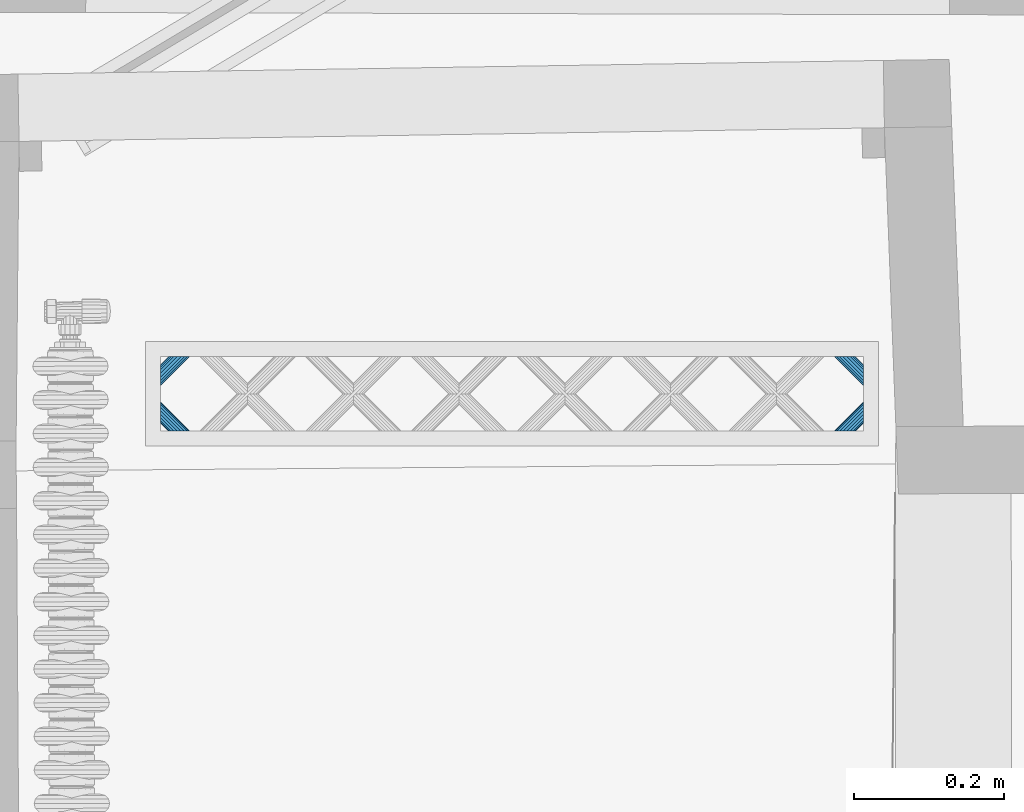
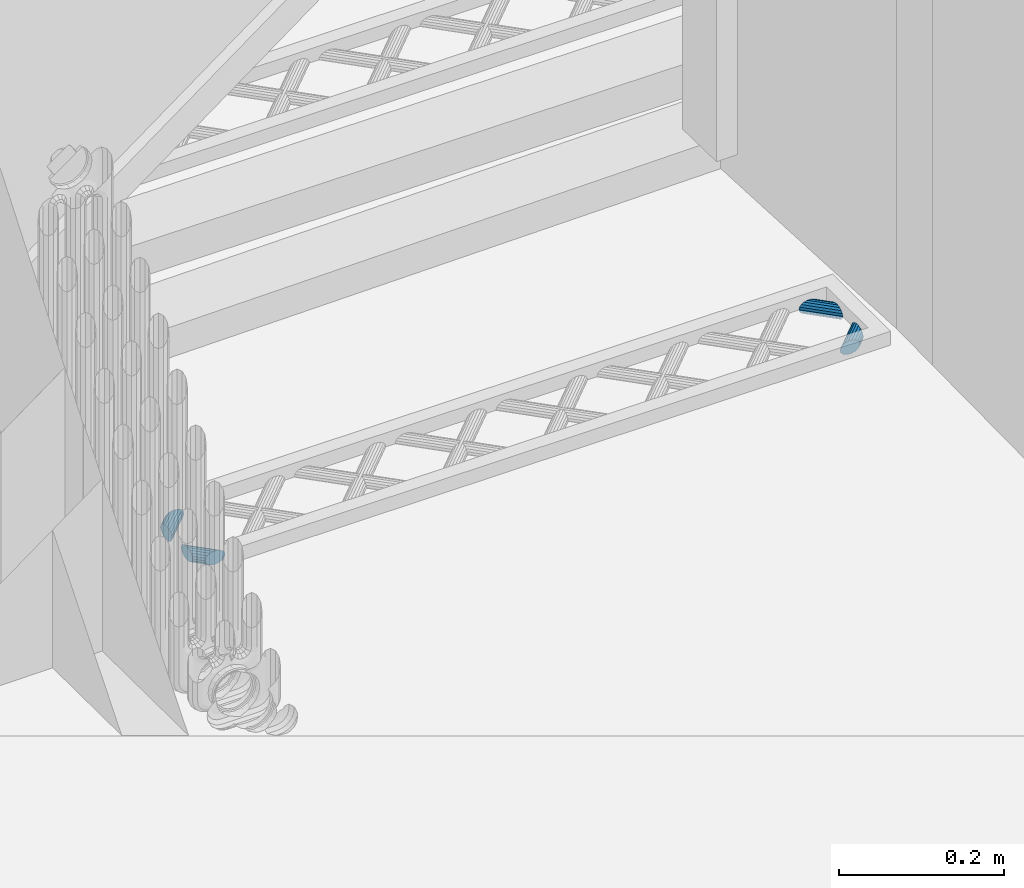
# One storey, part 85 of 133: 4 members, 1 element without a shape of its own.
"""IFC2X3 building model written with IfcOpenShell, lengths in centimetres."""

import ifcopenshell
import ifcopenshell.guid

model = None  # the IFC model being written
_history = None  # IfcOwnerHistory: only IFC2X3 demands one
_inside = {}  # id of a spatial element -> (the spatial element, [elements in it])
_under = {}  # id of a project, library or spatial element -> (it, [spatial elements below it])
_declared = {}  # id of a project -> (the project, [libraries it declares])
_typed = {}  # id of a type object -> (the type object, [elements of that type])
_made_of = {}  # id of a material, layer set ... -> (it, [elements and type objects made of it])


def new_model(schema):
    """Start an empty IFC model of exactly this schema.

    Asked for "IFC4X3", IfcOpenShell would pick the latest addendum, in which some entities
    have other attributes; the version numbers below select the first issue.
    IFC2X3 requires an IfcOwnerHistory on every rooted entity: one is made here for all.
    """
    global model, _history
    if schema == "IFC4X3":
        model = ifcopenshell.file(schema_version=(4, 3, 0, 0))
    else:
        model = ifcopenshell.file(schema=schema)
    _inside.clear()
    _under.clear()
    _declared.clear()
    _typed.clear()
    _made_of.clear()
    _history = None
    if model.schema == "IFC2X3":
        org = make("IfcOrganization", Name="unknown")
        user = make(
            "IfcPersonAndOrganization",
            ThePerson=make("IfcPerson", FamilyName="unknown"),
            TheOrganization=org,
        )
        app = make(
            "IfcApplication",
            ApplicationDeveloper=org,
            Version="unknown",
            ApplicationFullName="unknown",
            ApplicationIdentifier="unknown",
        )
        _history = make(
            "IfcOwnerHistory",
            OwningUser=user,
            OwningApplication=app,
            ChangeAction="ADDED",
            CreationDate=0,
        )
    return model


def make(cls, **values):
    """One entity of the class cls with the attributes given. An attribute that is None is left unset."""
    return model.create_entity(
        cls, **{name: value for name, value in values.items() if value is not None}
    )


def entity(cls, *values):
    """Any entity or typed value of the class cls, its attributes in the order of the schema. None: left unset."""
    e = model.create_entity(cls)
    for i, value in enumerate(values):
        if value is not None:
            e[i] = value
    return e


def rooted(cls, **values):
    """An entity with a GlobalId (a new one), such as an element, a storey or a relation."""
    return make(cls, GlobalId=ifcopenshell.guid.new(), OwnerHistory=_history, **values)


def si_unit(unit_type, name, prefix=None):
    """IfcSIUnit, for example si_unit("LENGTHUNIT", "METRE", prefix="MILLI")."""
    return make("IfcSIUnit", UnitType=unit_type, Prefix=prefix, Name=name)


def converted_unit(unit_type, name, factor, base, dimensions=None, offset=None):
    """IfcConversionBasedUnit, such as the inch: factor (a typed value) times the base unit."""
    return make(
        "IfcConversionBasedUnit"
        if offset is None
        else "IfcConversionBasedUnitWithOffset",
        ConversionOffset=offset,
        Dimensions=None
        if dimensions is None
        else entity("IfcDimensionalExponents", *dimensions),
        UnitType=unit_type,
        Name=name,
        ConversionFactor=make(
            "IfcMeasureWithUnit", ValueComponent=factor, UnitComponent=base
        ),
    )


def assignment(units):
    """IfcUnitAssignment: the units of a project."""
    return None if units is None else make("IfcUnitAssignment", Units=units)


def point(xyz):
    """IfcCartesianPoint."""
    return None if xyz is None else make("IfcCartesianPoint", Coordinates=xyz)


def direction(xyz):
    """IfcDirection."""
    return None if xyz is None else make("IfcDirection", DirectionRatios=xyz)


def frame(location, z_axis=None, x_axis=None):
    """IfcAxis2Placement3D, a coordinate frame: its origin and axes. An axis left out is left unset."""
    return make(
        "IfcAxis2Placement3D",
        Location=point(location),
        Axis=direction(z_axis),
        RefDirection=direction(x_axis),
    )


def origin():
    """The frame at (0, 0, 0) with its axes left unset."""
    return frame((0.0, 0.0, 0.0))


def origin_with_axes():
    """The frame at (0, 0, 0) with the z axis (0, 0, 1) and the x axis (1, 0, 0) written out."""
    return frame((0.0, 0.0, 0.0), z_axis=(0.0, 0.0, 1.0), x_axis=(1.0, 0.0, 0.0))


def place(relative_to, where):
    """IfcLocalPlacement: puts the frame where relative to a parent placement (None: the world)."""
    return make(
        "IfcLocalPlacement", PlacementRelTo=relative_to, RelativePlacement=where
    )


def context(
    kind, dimensions, precision=None, world=None, true_north=None, identifier=None
):
    """IfcGeometricRepresentationContext, for example the 3D "Model" context."""
    return make(
        "IfcGeometricRepresentationContext",
        ContextIdentifier=identifier,
        ContextType=kind,
        CoordinateSpaceDimension=dimensions,
        Precision=precision,
        WorldCoordinateSystem=world,
        TrueNorth=true_north,
    )


def subcontext(parent, identifier, kind, view, scale=None):
    """IfcGeometricRepresentationSubContext, for example "Body" below "Model"."""
    return make(
        "IfcGeometricRepresentationSubContext",
        ContextIdentifier=identifier,
        ContextType=kind,
        ParentContext=parent,
        TargetScale=scale,
        TargetView=view,
    )


def project(units=None, contexts=None):
    """IfcProject with its units and contexts."""
    return rooted(
        "IfcProject",
        Name="project",
        RepresentationContexts=contexts,
        UnitsInContext=assignment(units),
    )


def spatial(cls, under=None, at=None, **own):
    """A site, building, storey or space (cls), placed at a placement, below another one or the project."""
    s = rooted(cls, ObjectPlacement=at, **own)
    if under is not None:
        _under.setdefault(under.id(), (under, []))[1].append(s)
    return s


def faces_of(points, faces, orient=None, outer=None):
    """IfcFace entities. A face is a list of loops; a loop is a list of indices into points, from 0.

    orient and outer hold one flag for each loop. By default every Orientation is true, the
    first loop of a face is its IfcFaceOuterBound and the others are IfcFaceBound.
    """
    made = []
    for i, loops in enumerate(faces):
        bounds = []
        for j, loop in enumerate(loops):
            is_outer = j == 0 if outer is None else outer[i][j]
            bounds.append(
                make(
                    "IfcFaceOuterBound" if is_outer else "IfcFaceBound",
                    Bound=make("IfcPolyLoop", Polygon=[points[k] for k in loop]),
                    Orientation=True if orient is None else orient[i][j],
                )
            )
        made.append(make("IfcFace", Bounds=bounds))
    return made


def faceted_brep(points, faces, orient=None, outer=None, voids=None):
    """IfcFacetedBrep: a solid bounded by flat faces; with voids (closed shells), ...WithVoids."""
    shared = [point(p) for p in points]
    hull = make("IfcClosedShell", CfsFaces=faces_of(shared, faces, orient, outer))
    if voids is None:
        return make("IfcFacetedBrep", Outer=hull)
    return make(
        "IfcFacetedBrepWithVoids",
        Outer=hull,
        Voids=[
            make(cls, CfsFaces=faces_of(shared, fs, o, b)) for cls, fs, o, b in voids
        ],
    )


def shape(context_of_items, identifier, shape_type, items):
    """IfcShapeRepresentation: the items that make up one representation, for example the "Body"."""
    return make(
        "IfcShapeRepresentation",
        ContextOfItems=context_of_items,
        RepresentationIdentifier=identifier,
        RepresentationType=shape_type,
        Items=items,
    )


def material(Name=None, Category=None):
    """IfcMaterial."""
    return make("IfcMaterial", Name=Name, Category=Category)


def made_of(thing, what):
    """Note that an element or type object is made of a material, layer set ...; save() writes the relation."""
    if what is not None:
        _made_of.setdefault(what.id(), (what, []))[1].append(thing)
    return thing


def type_object(cls, material=None, **own):
    """A type object (cls), such as IfcWallType, which elements share."""
    return made_of(rooted(cls, **own), material)


def element(
    cls,
    number,
    at=None,
    inside=None,
    cuts=None,
    type_object=None,
    material=None,
    context=None,
    identifier="Body",
    shape_type=None,
    held_by="IfcProductDefinitionShape",
    body=None,
    shapes=None,
    **own,
):
    """One element of the class cls, such as IfcWall. Its Tag is "e" and its number.

    at: its placement. inside: the storey or other place that contains it. cuts: it is an
    opening in that element (IfcRelVoidsElement). A single representation is given by context,
    identifier, shape_type and body (its items); several are given by shapes. held_by: the class
    of the entity that holds the representations. save() writes the other relations.
    """
    e = rooted(cls, Tag="e%d" % number, ObjectPlacement=at, **own)
    if body is not None:
        shapes = [shape(context, identifier, shape_type, body)]
    if shapes is not None:
        e.Representation = make(held_by, Representations=shapes)
    if inside is not None:
        _inside.setdefault(inside.id(), (inside, []))[1].append(e)
    if cuts is not None:
        rooted(
            "IfcRelVoidsElement", RelatingBuildingElement=cuts, RelatedOpeningElement=e
        )
    if type_object is not None:
        _typed.setdefault(type_object.id(), (type_object, []))[1].append(e)
    return made_of(e, material)


def aggregate(whole, parts):
    """IfcRelAggregates: a whole, such as a stair, and the parts it consists of."""
    return rooted("IfcRelAggregates", RelatingObject=whole, RelatedObjects=parts)


def save(model, path):
    """Write the relations noted so far, then the file.

    IfcRelAggregates (storeys below a building ...), IfcRelContainedInSpatialStructure (elements
    in a storey), IfcRelDefinesByType, IfcRelAssociatesMaterial and IfcRelDeclares: one each for
    every whole, place, type object, material and project.
    """
    for whole, parts in _under.values():
        aggregate(whole, parts)
    for where, things in _inside.values():
        rooted(
            "IfcRelContainedInSpatialStructure",
            RelatedElements=things,
            RelatingStructure=where,
        )
    for kind, things in _typed.values():
        rooted("IfcRelDefinesByType", RelatedObjects=things, RelatingType=kind)
    for what, things in _made_of.values():
        rooted("IfcRelAssociatesMaterial", RelatedObjects=things, RelatingMaterial=what)
    for by, libraries in _declared.values():
        rooted("IfcRelDeclares", RelatingContext=by, RelatedDefinitions=libraries)
    model.write(path)


model = new_model("IFC2X3")

# Units and contexts
model_context = context("Model", 3, precision=0.0001, world=origin(), true_north=direction((0.225632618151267, 0.974212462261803, 0.0)))
body_context = subcontext(model_context, "Body", "Model", "MODEL_VIEW")
ifc_project = project(units=[si_unit("LENGTHUNIT", "METRE", prefix="CENTI"), si_unit("AREAUNIT", "SQUARE_METRE", prefix="CENTI"), si_unit("VOLUMEUNIT", "CUBIC_METRE", prefix="CENTI"), converted_unit("PLANEANGLEUNIT", "DEGREE", entity("IfcRatioMeasure", 0.0174532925), si_unit("PLANEANGLEUNIT", "RADIAN"), dimensions=[0, 0, 0, 0, 0, 0, 0])], contexts=[model_context])

# Site, building, storey
site_placement = place(None, origin_with_axes())
site = spatial("IfcSite", under=ifc_project, at=site_placement, Name="Default Site", CompositionType="ELEMENT")
building_placement = place(site_placement, origin_with_axes())
building = spatial("IfcBuilding", under=site, at=building_placement, Name="Default Building", CompositionType="ELEMENT")
storey_placement = place(building_placement, frame((0.0, 0.0, -291.400371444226), z_axis=(0.0, 0.0, 1.0), x_axis=(1.0, 0.0, 0.0)))
storey = spatial("IfcBuildingStorey", under=building, at=storey_placement, Name="Rez-de-Jardin", CompositionType="ELEMENT", Elevation=-291.400371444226)

# Assembly, members
building_element_proxy_type = type_object("IfcBuildingElementProxyType", Name="Type Object", PredefinedType="NOTDEFINED")
assembly_placement = place(storey_placement, frame((-251.995147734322, 552.177521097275, 0.0), z_axis=(0.0, 1.0, -2.38697950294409e-15), x_axis=(1.0, 0.0, 0.0)))
assembly = element("IfcElementAssembly", 1, at=assembly_placement, inside=storey, type_object=building_element_proxy_type, Name="Panneau 92047", ObjectType="Precast panel", PredefinedType="USERDEFINED")
ifc_material = material(Name="Aluminium satiné")
member_1_placement = place(assembly_placement, frame((5.83145134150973, 0.342020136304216, 11.9999997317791), z_axis=(1.16937634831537e-15, -1.43218776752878e-15, 1.0), x_axis=(0.632455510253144, -0.774596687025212, -1.84894641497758e-15)))
member_1 = element("IfcMember", 2, at=member_1_placement, material=ifc_material, Name="4294966754", context=body_context, shape_type="Brep", body=[
    faceted_brep([(1.66533453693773e-14, -6.17561557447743e-14, 1.2490009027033e-14), (-0.388289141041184, -6.24500451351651e-14, 1.17720832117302e-14), (-0.799165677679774, -0.150249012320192, 1.10123945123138e-14), (-1.18307220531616, -0.432625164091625, 1.0302571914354e-14), (-1.49370349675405, -0.81306926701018, 9.7282313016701e-15), (-1.69359292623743, -1.24569426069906, 9.35864645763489e-15), (-1.75863096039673, -1.67831921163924, 9.23839461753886e-15), (-1.68097311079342, -2.05876331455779, 9.38197982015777e-15), (-1.46998613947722, -2.34113942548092, 9.77208342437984e-15), (-1.15111778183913, -2.49138835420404, 1.03616539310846e-14), (-0.762828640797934, -2.49138835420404, 1.10795797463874e-14), (-0.351952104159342, -2.34113934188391, 1.18392684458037e-14), (0.0319541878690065, -2.05876347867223, 1.25490906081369e-14), (0.342585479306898, -1.67831937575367, 1.31234312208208e-14), (0.542475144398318, -1.24569409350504, 1.34930165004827e-14), (0.607513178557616, -0.813069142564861, 1.36132683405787e-14), (0.529855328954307, -0.432625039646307, 1.34696831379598e-14), (0.318868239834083, -0.150249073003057, 1.30795793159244e-14), (-2.15829487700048, -3.18414207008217, -3.91673892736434), (-1.89336721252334, -3.40045458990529, -3.8314513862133), (-1.66039371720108, -3.59067664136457, -3.58587577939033), (-1.48747446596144, -3.73186461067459, -3.20963189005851), (-1.39546603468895, -3.80698917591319, -2.74810045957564), (-1.39546603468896, -3.80698917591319, -2.25694924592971), (-1.48747446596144, -3.73186461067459, -1.7954185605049), (-1.66039371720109, -3.59067664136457, -1.41917467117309), (-1.89336721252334, -3.40045458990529, -1.17359906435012), (-2.15829487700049, -3.18414207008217, -1.08831152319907), (-2.42322254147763, -2.96782955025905, -1.17359906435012), (-2.65619603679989, -2.77760749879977, -1.41917467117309), (-2.82911528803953, -2.63641952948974, -1.79541856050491), (-2.92112371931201, -2.56129496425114, -2.25694924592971), (-2.92112371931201, -2.56129496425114, -2.74810045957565), (-2.82911528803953, -2.63641952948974, -3.20963189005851), (-2.65619603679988, -2.77760749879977, -3.58587577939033), (-2.42322254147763, -2.96782955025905, -3.8314513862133), (0.318868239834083, -0.150249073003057, 1.2490009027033e-14), (0.529855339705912, -0.432625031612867, -1.30225755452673e-08), (-1.89336720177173, -3.40045458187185, -3.83145139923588), (0.529855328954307, -0.432625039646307, 1.2490009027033e-14), (0.607513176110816, -0.813069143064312, 1.93437934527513e-09), (-1.66039371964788, -3.59067664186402, -3.58587577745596), (0.607513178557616, -0.813069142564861, 1.38777878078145e-14), (0.542475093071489, -1.24569408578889, 2.64850435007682e-08), (-1.48747436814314, -3.73186462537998, -3.20963194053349), (0.542475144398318, -1.24569409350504, 1.2490009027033e-14), (0.342585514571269, -1.67831939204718, -9.68223931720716e-09), (-1.39546592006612, -3.80698922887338, -2.74810049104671), (-1.48747438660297, -3.73186464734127, -3.20963191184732), (0.342585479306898, -1.67831937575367, 1.2490009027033e-14), (0.0319541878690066, -2.05876347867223, 1.2490009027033e-14), (0.0319541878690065, -2.05876347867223, 1.2490009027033e-14), (-0.351952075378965, -2.34113938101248, 1.21065681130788e-08), (-1.48747443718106, -3.73186464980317, -1.79541854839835), (-1.39546608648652, -3.80698910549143, -2.25694926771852), (-0.351952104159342, -2.34113934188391, 1.11022302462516e-14), (-0.762828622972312, -2.49138840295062, 2.6485041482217e-08), (-1.66039375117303, -3.59067654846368, -1.41917472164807), (-0.762828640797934, -2.49138835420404, 1.11022302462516e-14), (-1.15111778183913, -2.4913883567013, 1.93437643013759e-09), (-1.89336721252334, -3.40045441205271, -1.17359920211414), (-1.66039371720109, -3.59067646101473, -1.41917481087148), (-1.15111778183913, -2.49138835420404, 9.71445146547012e-15), (-1.46998609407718, -2.34113932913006, -1.03346555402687e-07), (-2.15829479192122, -3.18414188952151, -1.08831171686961), (-1.89336713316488, -3.4004544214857, -1.17359924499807), (-1.46998613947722, -2.34113942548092, 9.71445146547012e-15), (-1.68097319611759, -2.05876337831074, 1.03346574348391e-07), (-2.42322247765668, -2.96782950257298, -1.17359914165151), (-2.15829480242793, -3.18414201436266, -1.08831161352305), (-1.68097311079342, -2.05876331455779, 9.71445146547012e-15), (-1.75863095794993, -1.67831921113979, -1.93435711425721e-09), (-2.65619585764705, -2.77760746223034, -1.41917481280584), (-2.4232223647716, -2.96782951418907, -1.17359920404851), (-1.75863096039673, -1.67831921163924, 8.32667268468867e-15), (-1.69359287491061, -1.24569426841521, -2.64850222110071e-08), (-2.8291152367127, -2.6364195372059, -1.79541858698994), (-2.65619588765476, -2.7776075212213, -1.4191747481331), (-1.69359292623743, -1.24569426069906, 8.32667268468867e-15), (-1.49370345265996, -0.813069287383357, -1.21065472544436e-08), (-2.92112359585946, -2.561295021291, -2.25694927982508), (-1.49370349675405, -0.81306926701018, 9.71445146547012e-15), (-1.18307220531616, -0.432625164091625, 9.71445146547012e-15), (-0.79916565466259, -0.150249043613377, 9.68226144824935e-09), (-2.82911531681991, -2.63641949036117, -3.20963190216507), (-2.92112377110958, -2.56129489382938, -2.74810048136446), (-0.799165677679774, -0.150249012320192, 9.71445146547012e-15), (-0.388289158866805, 4.8746523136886e-08, -2.64850198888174e-08), (-2.6561960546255, -2.77760745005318, -3.58587580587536), (-2.82911533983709, -2.63641938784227, -3.20963196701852), (-0.388289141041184, -6.24500451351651e-14, 1.11022302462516e-14), (1.66276478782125e-14, 2.49719393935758e-09, -1.93435348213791e-09), (-2.42322254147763, -2.96782954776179, -3.83145138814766), (0.318868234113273, -0.150249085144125, 1.30226011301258e-08), (-2.15829488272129, -3.18414208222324, -3.91673891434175)], [[[0, 1, 2, 3, 4, 5, 6, 7, 8, 9, 10, 11, 12, 13, 14, 15, 16, 17]], [[18, 19, 20, 21, 22, 23, 24, 25, 26, 27, 28, 29, 30, 31, 32, 33, 34, 35]], [[36, 37, 38, 18]], [[39, 40, 41, 19]], [[42, 43, 44, 20]], [[45, 46, 47, 48]], [[49, 50, 23, 22]], [[51, 52, 53, 54]], [[55, 56, 57, 24]], [[58, 59, 60, 61]], [[62, 63, 64, 65]], [[66, 67, 68, 69]], [[70, 71, 72, 73]], [[74, 75, 76, 77]], [[78, 79, 80, 30]], [[81, 82, 32, 31]], [[82, 83, 84, 85]], [[86, 87, 88, 89]], [[90, 91, 92, 34]], [[0, 93, 94, 35]]]),
])
member_2_placement = place(assembly_placement, frame((95.9999978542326, 0.342020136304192, 3.17359939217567), z_axis=(0.999999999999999, 0.0, 0.0), x_axis=(0.0, -0.774596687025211, -0.632455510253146)))
member_2 = element("IfcMember", 3, at=member_2_placement, material=ifc_material, Name="4294966747", context=body_context, shape_type="Brep", body=[
    faceted_brep([(-9.95731275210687e-14, 7.32053306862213e-14, -2.22044604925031e-14), (-0.388289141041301, 7.42461647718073e-14, -2.22044604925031e-14), (-0.799165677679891, -0.150249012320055, -2.22044604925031e-14), (-1.18307196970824, -0.432624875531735, -2.22044604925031e-14), (-1.49370326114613, -0.813068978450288, -2.22044604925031e-14), (-1.69359292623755, -1.24569426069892, -2.22044604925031e-14), (-1.75863096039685, -1.6783192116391, -2.22044604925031e-14), (-1.68097311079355, -2.05876331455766, -2.22044604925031e-14), (-1.46998602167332, -2.34113928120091, -2.22044604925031e-14), (-1.15111778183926, -2.4913883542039, -2.22044604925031e-14), (-0.762828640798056, -2.4913883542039, -2.22044604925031e-14), (-0.351952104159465, -2.34113934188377, -2.22044604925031e-14), (0.031954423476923, -2.05876319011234, -2.22044604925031e-14), (0.342585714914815, -1.67831908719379, -2.22044604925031e-14), (0.542475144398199, -1.24569409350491, -2.22044604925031e-14), (0.607513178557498, -0.813069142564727, -2.22044604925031e-14), (0.529855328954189, -0.432625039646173, -2.22044604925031e-14), (0.318868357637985, -0.150248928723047, -2.22044604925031e-14), (1.00717709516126, 0.692753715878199, -1.08830928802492), (1.2721047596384, 0.476441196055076, -1.17359757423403), (1.50507825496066, 0.286219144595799, -1.41917467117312), (1.6779975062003, 0.145031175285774, -1.79541707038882), (1.77000593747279, 0.0699066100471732, -2.25694775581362), (1.77000593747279, 0.0699066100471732, -2.74809598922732), (1.6779975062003, 0.145031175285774, -3.2096326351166), (1.50507825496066, 0.286219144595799, -3.5858750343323), (1.2721047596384, 0.476441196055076, -3.83145213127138), (1.00717709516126, 0.692753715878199, -3.91673445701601), (0.742249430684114, 0.909066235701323, -3.83145213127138), (0.509275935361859, 1.0992882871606, -3.5858750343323), (0.336356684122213, 1.24047625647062, -3.2096326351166), (0.24434825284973, 1.31560082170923, -2.74809598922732), (0.24434825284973, 1.31560082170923, -2.25694775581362), (0.336356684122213, 1.24047625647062, -1.79541707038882), (0.509275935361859, 1.0992882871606, -1.41917467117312), (0.742249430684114, 0.909066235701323, -1.17359757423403), (0.529855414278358, -0.432624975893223, 1.03346542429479e-07), (1.27210409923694, 0.476440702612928, -1.17359837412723), (1.00717612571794, 0.692752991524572, -1.08831046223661), (0.607513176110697, -0.813069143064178, -1.9343882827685e-09), (1.50507807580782, 0.286219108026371, -1.41917481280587), (1.27210387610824, 0.476441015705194, -1.17359827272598), (0.54247509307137, -1.24569408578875, -2.64850527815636e-08), (1.67799685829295, 0.14503127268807, -1.79541740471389), (1.50507810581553, 0.286219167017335, -1.41917474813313), (0.342585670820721, -1.67831906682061, -1.2106579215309e-08), (1.77000549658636, 0.069906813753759, -2.25694787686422), (1.67799718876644, 0.145031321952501, -1.79541715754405), (0.0319544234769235, -2.05876319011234, -2.22044604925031e-14), (1.77000593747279, 0.0699066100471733, -2.74809598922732), (1.77000593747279, 0.0699066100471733, -2.25694775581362), (-0.351952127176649, -2.34113931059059, 9.68222939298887e-09), (1.67799743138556, 0.145031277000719, -3.20963260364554), (1.77000661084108, 0.0699056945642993, -2.74809627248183), (-0.762828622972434, -2.49138840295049, -2.64850525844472e-08), (1.5050783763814, 0.286218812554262, -3.58587521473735), (1.67799745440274, 0.145031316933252, -3.20963255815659), (-1.15111778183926, -2.49138835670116, -1.93438807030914e-09), (1.2721047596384, 0.476441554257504, -3.83145185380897), (1.50507825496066, 0.286218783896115, -3.58587531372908), (-1.46998601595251, -2.34113926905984, 1.30225661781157e-08), (1.00717614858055, 0.692751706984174, -3.91673661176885), (1.27210491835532, 0.476441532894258, -3.83145176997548), (-1.68097312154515, -2.0587633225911, -1.30226105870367e-08), (0.742249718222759, 0.909066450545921, -3.83145178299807), (1.00717530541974, 0.692752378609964, -3.91673662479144), (-1.75863095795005, -1.67831921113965, 1.93434387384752e-09), (0.509275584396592, 1.0992882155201, -3.58587531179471), (0.742249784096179, 0.909066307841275, -3.83145185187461), (-1.69359287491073, -1.24569426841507, 2.64850084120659e-08), (0.336356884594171, 1.24047622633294, -3.20963253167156), (0.509275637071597, 1.09928833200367, -3.58587518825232), (-1.4937032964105, -0.813068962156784, -9.68227384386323e-09), (0.244347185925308, 1.31560131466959, -2.74809628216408), (0.336356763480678, 1.24047621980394, -3.20963261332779), (0.244348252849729, 1.31560082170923, -2.25694775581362), (0.244348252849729, 1.31560082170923, -2.74809598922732), (-0.799165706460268, -0.15024897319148, 1.21065347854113e-08), (0.336356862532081, 1.24047601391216, -1.79541714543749), (0.244348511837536, 1.31560046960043, -2.25694786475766), (-0.388289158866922, 4.87466591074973e-08, 2.64850083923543e-08), (0.5092759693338, 1.09928819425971, -1.4191747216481), (0.336356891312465, 1.24047568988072, -1.79541737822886), (-9.95988250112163e-14, 2.49732905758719e-09, 1.9343438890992e-09), (0.742249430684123, 0.90906533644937, -1.17359827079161), (0.509275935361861, 1.09928810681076, -1.41917481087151), (0.318868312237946, -0.15024902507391, -1.03346586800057e-07), (1.00717653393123, 0.692752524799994, -1.08831056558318), (0.742249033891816, 0.909065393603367, -1.17359847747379)], [[[0, 1, 2, 3, 4, 5, 6, 7, 8, 9, 10, 11, 12, 13, 14, 15, 16, 17]], [[18, 19, 20, 21, 22, 23, 24, 25, 26, 27, 28, 29, 30, 31, 32, 33, 34, 35]], [[17, 36, 37, 38]], [[16, 39, 40, 41]], [[15, 42, 43, 44]], [[14, 45, 46, 47]], [[13, 48, 49, 50]], [[12, 51, 52, 53]], [[11, 54, 55, 56]], [[10, 57, 58, 59]], [[9, 60, 61, 62]], [[8, 63, 64, 65]], [[7, 66, 67, 68]], [[6, 69, 70, 71]], [[5, 72, 73, 74]], [[4, 3, 75, 76]], [[3, 77, 78, 79]], [[2, 80, 81, 82]], [[1, 83, 84, 85]], [[0, 86, 87, 88]]]),
])
member_3_placement = place(assembly_placement, frame((95.9999978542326, 0.34202013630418, 8.1685483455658), z_axis=(0.999999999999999, 0.0, 0.0), x_axis=(0.0, -0.774596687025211, -0.632455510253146)))
member_3 = element("IfcMember", 4, at=member_3_placement, material=ifc_material, Name="4294966746", context=body_context, shape_type="Brep", body=[
    faceted_brep([(-8.74300631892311e-14, 8.53483950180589e-14, -2.22044604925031e-14), (-0.388289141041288, 8.60422844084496e-14, -2.22044604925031e-14), (-0.799165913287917, -0.150249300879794, -2.22044604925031e-14), (-1.1830724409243, -0.432625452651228, -2.22044604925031e-14), (-1.4937037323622, -0.81306955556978, -2.22044604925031e-14), (-1.69359292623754, -1.24569426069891, -2.22044604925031e-14), (-1.75863119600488, -1.67831950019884, -2.22044604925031e-14), (-1.68097334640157, -2.05876360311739, -2.22044604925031e-14), (-1.46998625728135, -2.34113956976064, -2.22044604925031e-14), (-1.15111801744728, -2.49138864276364, -2.22044604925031e-14), (-0.762828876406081, -2.49138864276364, -2.22044604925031e-14), (-0.351952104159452, -2.34113934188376, -2.22044604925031e-14), (0.0319539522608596, -2.05876376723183, -2.22044604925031e-14), (0.342585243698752, -1.67831966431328, -2.22044604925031e-14), (0.542474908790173, -1.24569438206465, -2.22044604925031e-14), (0.60751317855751, -0.813069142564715, -2.22044604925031e-14), (0.529855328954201, -0.432625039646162, -2.22044604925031e-14), (0.318868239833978, -0.15024907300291, -2.22044604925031e-14), (-2.1582948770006, -3.18414207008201, -3.91673445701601), (-1.89336721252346, -3.40045458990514, -3.83145213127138), (-1.6603937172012, -3.59067664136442, -3.5858750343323), (-1.48747446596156, -3.73186461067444, -3.2096326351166), (-1.39546603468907, -3.80698917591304, -2.74809598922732), (-1.39546603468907, -3.80698917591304, -2.25694775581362), (-1.48747446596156, -3.73186461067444, -1.79541707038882), (-1.6603937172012, -3.59067664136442, -1.41917467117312), (-1.89336721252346, -3.40045458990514, -1.17359757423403), (-2.1582948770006, -3.18414207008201, -1.08830928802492), (-2.42322254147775, -2.96782955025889, -1.17359757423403), (-2.6561960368, -2.77760749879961, -1.41917467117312), (-2.82911528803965, -2.63641952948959, -1.79541707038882), (-2.92112371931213, -2.56129496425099, -2.25694775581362), (-2.92112371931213, -2.56129496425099, -2.74809598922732), (-2.82911528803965, -2.63641952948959, -3.2096326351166), (-2.6561960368, -2.77760749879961, -3.5858750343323), (-2.42322254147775, -2.96782955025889, -3.83145213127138), (0.529855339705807, -0.432625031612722, -1.30226109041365e-08), (-1.8933675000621, -3.40045480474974, -3.83145178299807), (-2.15829308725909, -3.18414073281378, -3.91673662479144), (0.607513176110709, -0.813069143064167, 1.93434395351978e-09), (-1.66039336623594, -3.59067656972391, -3.58587531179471), (-1.89336756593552, -3.40045466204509, -3.83145185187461), (0.542475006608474, -1.24569439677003, -5.04750035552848e-08), (-1.48747466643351, -3.73186458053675, -3.20963253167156), (-1.66039341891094, -3.59067668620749, -3.58587518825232), (0.342585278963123, -1.67831968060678, -9.68227396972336e-09), (-1.39546504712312, -3.80698963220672, -2.74809626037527), (-1.48747462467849, -3.73186453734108, -3.20963259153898), (0.0319539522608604, -2.05876376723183, -2.22044604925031e-14), (-0.351952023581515, -2.34113945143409, 3.38953431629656e-08), (-1.48747459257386, -3.73186443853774, -1.79541712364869), (-1.39546624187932, -3.806988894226, -2.25694784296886), (-0.762828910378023, -2.49138854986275, -5.04750033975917e-08), (-1.66039375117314, -3.59067654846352, -1.4191747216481), (-1.48747467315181, -3.73186404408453, -1.79541737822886), (-1.15111801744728, -2.4913886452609, 1.93434344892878e-09), (-1.89336721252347, -3.40045387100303, -1.17359813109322), (-1.46998625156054, -2.34113955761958, -1.30226096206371e-08), (-2.15829439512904, -3.1841410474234, -1.08831038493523), (-1.89336689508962, -3.40045391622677, -1.17359829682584), (-1.68097335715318, -2.05876361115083, 1.30225661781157e-08), (-2.42322195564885, -2.96782911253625, -1.17359828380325), (-2.15829398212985, -3.1841414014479, -1.08831037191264), (-1.75863119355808, -1.67831949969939, -1.9343882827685e-09), (-2.6561960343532, -2.77760749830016, -1.41917467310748), (-2.42322183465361, -2.96782940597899, -1.17359813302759), (-1.69359302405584, -1.24569424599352, 5.04749593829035e-08), (-2.82911478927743, -2.63641960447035, -1.79541732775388), (-1.49370360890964, -0.813069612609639, -3.38953879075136e-08), (-2.92112327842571, -2.56129516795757, -2.25694787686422), (-2.82911497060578, -2.63641967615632, -1.79541715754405), (-1.1830724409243, -0.432625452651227, -2.22044604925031e-14), (-0.799165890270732, -0.15024933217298, 9.68222986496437e-09), (-2.82911516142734, -2.63641970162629, -3.20963258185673), (-2.92112434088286, -2.56129411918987, -2.74809625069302), (-0.388289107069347, -9.29008043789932e-08, 5.04749583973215e-08), (-2.65619610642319, -2.77760730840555, -3.58587513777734), (-2.82911518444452, -2.63641981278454, -3.20963248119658), (-8.74557606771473e-14, 2.49734098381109e-09, -1.93438813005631e-09), (-2.42322254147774, -2.96782990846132, -3.83145185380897), (-2.65619603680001, -2.77760713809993, -3.58587531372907), (0.318868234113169, -0.150249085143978, 1.30225664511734e-08), (-2.1582939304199, -3.18414006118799, -3.91673661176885), (-2.42322270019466, -2.96782988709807, -3.83145176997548)], [[[0, 1, 2, 3, 4, 5, 6, 7, 8, 9, 10, 11, 12, 13, 14, 15, 16, 17]], [[18, 19, 20, 21, 22, 23, 24, 25, 26, 27, 28, 29, 30, 31, 32, 33, 34, 35]], [[17, 36, 37, 38]], [[16, 39, 40, 41]], [[15, 42, 43, 44]], [[14, 45, 46, 47]], [[13, 48, 23, 22]], [[12, 49, 50, 51]], [[11, 52, 53, 54]], [[10, 55, 56, 25]], [[9, 57, 58, 59]], [[8, 60, 61, 62]], [[7, 63, 64, 65]], [[6, 66, 67, 29]], [[5, 68, 69, 70]], [[4, 71, 32, 31]], [[3, 72, 73, 74]], [[2, 75, 76, 77]], [[1, 78, 79, 80]], [[0, 81, 82, 83]]]),
])
member_4_placement = place(assembly_placement, frame((3.17359939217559, 0.342020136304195, 1.99999995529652), z_axis=(1.16937634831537e-15, 1.43218776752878e-15, -1.0), x_axis=(-0.632455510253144, -0.774596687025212, -1.84894641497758e-15)))
member_4 = element("IfcMember", 5, at=member_4_placement, material=ifc_material, Name="4294966739", context=body_context, shape_type="Brep", body=[
    faceted_brep([(-3.15719672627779e-14, 2.32452945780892e-14, 3.12250225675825e-15), (-0.388289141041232, 2.35922392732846e-14, 3.8404280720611e-15), (-0.799165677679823, -0.150249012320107, 4.60011677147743e-15), (-1.18307196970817, -0.432624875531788, 5.30993893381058e-15), (-1.49370326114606, -0.813068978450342, 5.88427954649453e-15), (-1.69359292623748, -1.24569426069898, 6.25386482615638e-15), (-1.75863096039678, -1.67831921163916, 6.3741166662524e-15), (-1.68097311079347, -2.05876331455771, 6.23053146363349e-15), (-1.46998602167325, -2.34113928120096, 5.8404276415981e-15), (-1.15111778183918, -2.49138835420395, 5.25085735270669e-15), (-0.762828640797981, -2.49138835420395, 4.53293153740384e-15), (-0.351952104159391, -2.34113934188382, 3.77324283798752e-15), (0.0319544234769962, -2.05876319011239, 3.06342024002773e-15), (0.342585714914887, -1.67831908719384, 2.48907962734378e-15), (0.54247514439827, -1.24569409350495, 2.11949478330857e-15), (0.607513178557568, -0.813069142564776, 1.99924294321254e-15), (0.529855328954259, -0.432625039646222, 2.14282814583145e-15), (0.318868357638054, -0.150248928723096, 2.53293175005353e-15), (1.00717709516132, 0.692753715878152, -1.0883117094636), (1.27210475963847, 0.476441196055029, -1.17359943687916), (1.50507825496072, 0.286219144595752, -1.41917504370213), (1.67799750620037, 0.145031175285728, -1.79541856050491), (1.77000593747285, 0.0699066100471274, -2.25694961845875), (1.77000593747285, 0.0699066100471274, -2.74810083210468), (1.67799750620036, 0.145031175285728, -3.20963226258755), (1.50507825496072, 0.286219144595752, -3.58587577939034), (1.27210475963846, 0.476441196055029, -3.8314513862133), (1.00717709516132, 0.692753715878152, -3.91673892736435), (0.742249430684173, 0.909066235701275, -3.8314513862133), (0.509275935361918, 1.09928828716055, -3.58587577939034), (0.336356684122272, 1.24047625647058, -3.20963226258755), (0.24434825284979, 1.31560082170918, -2.74810083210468), (0.244348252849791, 1.31560082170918, -2.25694961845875), (0.336356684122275, 1.24047625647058, -1.79541856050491), (0.509275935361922, 1.09928828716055, -1.41917504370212), (0.742249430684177, 0.909066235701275, -1.17359943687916), (0.318868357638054, -0.150248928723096, 2.42861286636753e-15), (0.529855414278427, -0.432624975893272, 1.03346566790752e-07), (1.27210484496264, 0.476441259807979, -1.17359933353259), (0.529855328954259, -0.432625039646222, 2.42861286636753e-15), (0.607513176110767, -0.813069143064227, -1.93436402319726e-09), (1.50507825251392, 0.286219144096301, -1.41917504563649), (1.27210475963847, 0.47644119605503, -1.17359943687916), (0.607513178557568, -0.813069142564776, 2.08166817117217e-15), (0.542475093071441, -1.2456940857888, -2.64850282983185e-08), (1.67799745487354, 0.14503118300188, -1.79541858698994), (0.54247514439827, -1.24569409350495, 2.08166817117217e-15), (0.342585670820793, -1.67831906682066, -1.21065544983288e-08), (1.77000589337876, 0.0699066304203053, -2.25694963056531), (1.67799750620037, 0.145031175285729, -1.79541856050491), (0.342585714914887, -1.67831908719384, 2.42861286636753e-15), (0.031954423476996, -2.05876319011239, 3.12250225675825e-15), (1.77000593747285, 0.0699066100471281, -2.74810083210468), (1.77000593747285, 0.0699066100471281, -2.25694961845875), (0.0319544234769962, -2.05876319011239, 3.12250225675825e-15), (-0.351952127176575, -2.34113931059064, 9.68225558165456e-09), (1.67799748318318, 0.145031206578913, -3.2096322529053), (-0.351952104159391, -2.34113934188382, 3.81639164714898e-15), (-0.76282862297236, -2.49138840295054, -2.64850263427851e-08), (1.50507827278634, 0.286219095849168, -3.58587580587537), (1.67799750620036, 0.145031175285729, -3.20963226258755), (-0.762828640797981, -2.49138835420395, 4.5102810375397e-15), (-1.15111778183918, -2.49138835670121, -1.93436052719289e-09), (1.27210475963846, 0.476441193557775, -3.83145138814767), (1.50507825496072, 0.286219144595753, -3.58587577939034), (-1.15111778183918, -2.49138835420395, 5.55111512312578e-15), (-1.46998601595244, -2.34113926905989, 1.30225940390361e-08), (1.00717710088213, 0.69275372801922, -3.91673891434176), (1.27210475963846, 0.47644119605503, -3.8314513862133), (-1.46998602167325, -2.34113928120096, 5.89805981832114e-15), (-1.68097312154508, -2.05876332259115, -1.30225818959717e-08), (0.742249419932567, 0.909066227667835, -3.83145139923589), (-1.68097311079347, -2.05876331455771, 6.24500451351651e-15), (-1.75863095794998, -1.6783192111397, 1.93437224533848e-09), (0.509275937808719, 1.09928828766, -3.58587577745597), (0.742249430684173, 0.909066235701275, -3.8314513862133), (-1.75863096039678, -1.67831921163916, 6.59194920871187e-15), (-1.69359287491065, -1.24569426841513, 2.64850372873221e-08), (0.3363567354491, 1.24047624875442, -3.20963223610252), (-1.69359292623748, -1.24569426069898, 6.59194920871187e-15), (-1.49370329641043, -0.813068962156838, -9.68224586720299e-09), (0.244348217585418, 1.31560083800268, -2.74810084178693), (-1.49370326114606, -0.813068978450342, 5.89805981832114e-15), (-1.18307196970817, -0.432624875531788, 5.20417042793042e-15), (0.24434825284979, 1.31560082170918, -2.25694961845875), (0.244348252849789, 1.31560082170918, -2.74810083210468), (-0.7991657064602, -0.150248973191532, 1.21065618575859e-08), (0.336356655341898, 1.24047629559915, -1.79541854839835), (-0.799165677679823, -0.150249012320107, 4.85722573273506e-15), (-0.388289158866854, 4.87466082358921e-08, 2.64850346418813e-08), (0.5092759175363, 1.09928833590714, -1.41917501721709), (-0.388289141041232, 2.35922392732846e-14, 4.16333634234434e-15), (-3.15976647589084e-14, 2.49727942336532e-09, 1.93436946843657e-09), (0.742249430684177, 0.909066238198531, -1.17359943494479), (0.318868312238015, -0.150249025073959, -1.033465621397e-07), (1.00717704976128, 0.692753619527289, -1.08831181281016), (0.742249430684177, 0.909066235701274, -1.17359943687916)], [[[0, 1, 2, 3, 4, 5, 6, 7, 8, 9, 10, 11, 12, 13, 14, 15, 16, 17]], [[18, 19, 20, 21, 22, 23, 24, 25, 26, 27, 28, 29, 30, 31, 32, 33, 34, 35]], [[36, 37, 38, 18]], [[39, 40, 41, 42]], [[43, 44, 45, 20]], [[46, 47, 48, 49]], [[50, 51, 52, 53]], [[54, 55, 56, 52]], [[57, 58, 59, 60]], [[61, 62, 63, 64]], [[65, 66, 67, 68]], [[69, 70, 71, 27]], [[72, 73, 74, 75]], [[76, 77, 78, 29]], [[79, 80, 81, 30]], [[82, 83, 84, 85]], [[83, 86, 87, 84]], [[88, 89, 90, 33]], [[91, 92, 93, 34]], [[0, 94, 95, 96]]]),
])
aggregate(assembly, [member_1, member_2, member_3, member_4])

save(model, "model.ifc")
